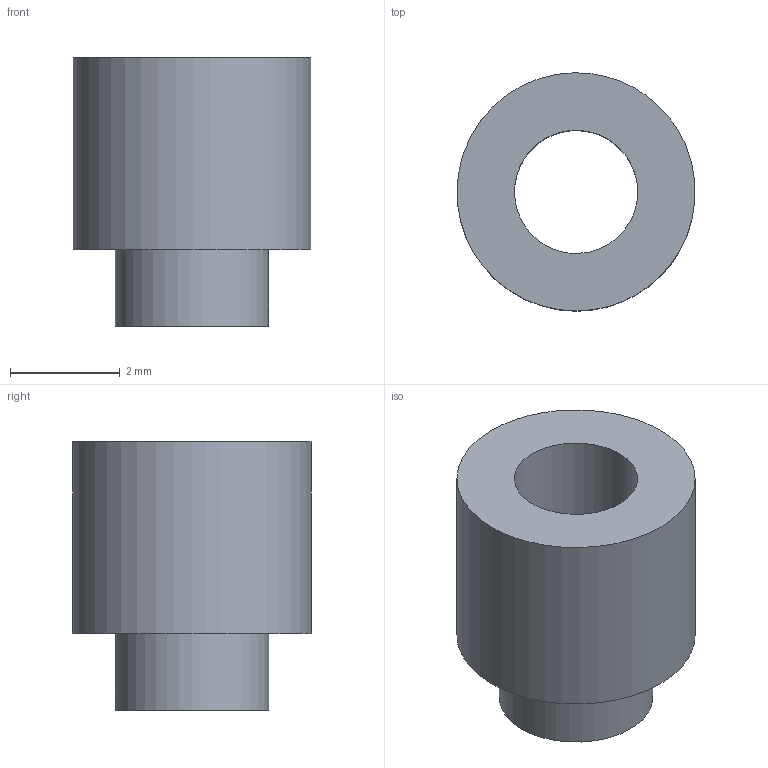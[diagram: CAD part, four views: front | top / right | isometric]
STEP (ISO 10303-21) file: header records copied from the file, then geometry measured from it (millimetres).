
FILE_DESCRIPTION(('FreeCAD Model'),'2;1');
FILE_NAME('Open CASCADE Shape Model','2026-03-20T17:23:10',('Author'),( ''),'Open CASCADE STEP processor 7.8','FreeCAD','Unknown');
FILE_SCHEMA(('AP242_MANAGED_MODEL_BASED_3D_ENGINEERING_MIM_LF. {1 0 10303 442 1 1 4 }'));
Length unit declared in the file: millimetre
Products named in the file (1): 1_transformed
Bounding box: 4.35 x 4.35 x 4.9 mm (x, y, z)
Volume: 41.5 mm3; surface area: 116.8 mm2
Topology: 1 solids, 1 shells, 6 faces, 9 edges, 6 vertices
Faces by surface type: bspline 6
Entity records: 201 total; most frequent: CARTESIAN_POINT 109, ORIENTED_EDGE 18, FACE_BOUND 9, EDGE_LOOP 9, EDGE_CURVE 9, ADVANCED_FACE 6, VERTEX_POINT 6, B_SPLINE_SURFACE_WITH_KNOTS 3
